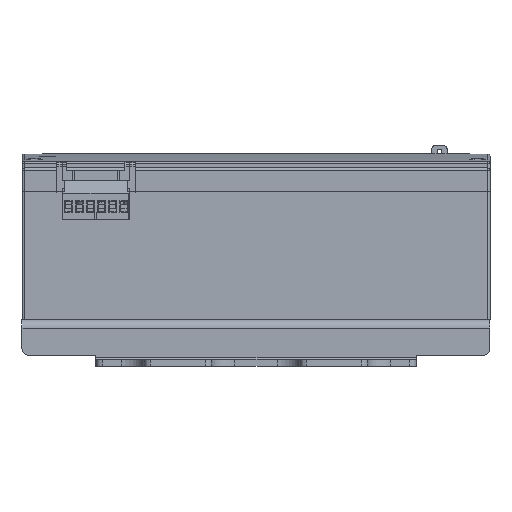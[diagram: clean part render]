
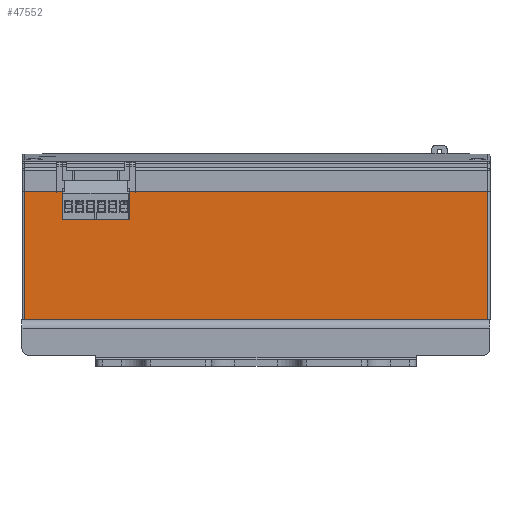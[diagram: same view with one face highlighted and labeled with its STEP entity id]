
A CAD part, front view. The second image highlights one B-rep face of the part: STEP entity #47552.
In plain terms, the highlighted planar face has unit normal (0, -1, 0).
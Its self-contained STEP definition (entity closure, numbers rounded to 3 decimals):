
#34376=LINE('',#152516,#40698);
#34391=LINE('',#152638,#40713);
#34399=LINE('',#152654,#40721);
#34450=LINE('',#152775,#40772);
#34451=LINE('',#152777,#40773);
#34452=LINE('',#152779,#40774);
#34453=LINE('',#152780,#40775);
#34454=LINE('',#152781,#40776);
#40698=VECTOR('',#121363,1.);
#40713=VECTOR('',#121418,1.);
#40721=VECTOR('',#121426,1.);
#40772=VECTOR('',#121503,1.);
#40773=VECTOR('',#121504,1.);
#40774=VECTOR('',#121505,1.);
#40775=VECTOR('',#121506,1.);
#40776=VECTOR('',#121507,1.);
#47552=ADVANCED_FACE('',(#53456),#50717,.F.);
#50717=PLANE('',#105601);
#53456=FACE_OUTER_BOUND('',#57890,.T.);
#57890=EDGE_LOOP('',(#72572,#72573,#72574,#72575,#72576,#72577,#72578,#72579));
#72572=ORIENTED_EDGE('',*,*,#94098,.T.);
#72573=ORIENTED_EDGE('',*,*,#94158,.T.);
#72574=ORIENTED_EDGE('',*,*,#94159,.T.);
#72575=ORIENTED_EDGE('',*,*,#94160,.T.);
#72576=ORIENTED_EDGE('',*,*,#94090,.T.);
#72577=ORIENTED_EDGE('',*,*,#94161,.T.);
#72578=ORIENTED_EDGE('',*,*,#94053,.F.);
#72579=ORIENTED_EDGE('',*,*,#94162,.T.);
#85204=VERTEX_POINT('',#152517);
#85205=VERTEX_POINT('',#152518);
#85238=VERTEX_POINT('',#152637);
#85239=VERTEX_POINT('',#152639);
#85246=VERTEX_POINT('',#152653);
#85247=VERTEX_POINT('',#152655);
#85304=VERTEX_POINT('',#152776);
#85305=VERTEX_POINT('',#152778);
#94053=EDGE_CURVE('',#85204,#85205,#34376,.T.);
#94090=EDGE_CURVE('',#85239,#85238,#34391,.T.);
#94098=EDGE_CURVE('',#85247,#85246,#34399,.T.);
#94158=EDGE_CURVE('',#85246,#85304,#34450,.T.);
#94159=EDGE_CURVE('',#85304,#85305,#34451,.T.);
#94160=EDGE_CURVE('',#85305,#85239,#34452,.T.);
#94161=EDGE_CURVE('',#85238,#85205,#34453,.T.);
#94162=EDGE_CURVE('',#85204,#85247,#34454,.T.);
#105601=AXIS2_PLACEMENT_3D('',#152782,#121508,#121509);
#121363=DIRECTION('',(-1.,0.,0.));
#121418=DIRECTION('',(-1.,0.,0.));
#121426=DIRECTION('',(-1.,0.,0.));
#121503=DIRECTION('',(0.,0.,-1.));
#121504=DIRECTION('',(-1.,0.,0.));
#121505=DIRECTION('',(0.,0.,1.));
#121506=DIRECTION('',(0.,0.,-1.));
#121507=DIRECTION('',(0.,0.,1.));
#121508=DIRECTION('',(0.,1.,0.));
#121509=DIRECTION('',(0.,0.,1.));
#152516=CARTESIAN_POINT('',(2376.571,-97.549,170.41));
#152517=CARTESIAN_POINT('',(2585.571,-97.549,170.41));
#152518=CARTESIAN_POINT('',(2377.571,-97.549,170.41));
#152637=CARTESIAN_POINT('',(2377.571,-97.549,227.91));
#152638=CARTESIAN_POINT('',(2475.698,-97.549,227.91));
#152639=CARTESIAN_POINT('',(2394.661,-97.549,227.91));
#152653=CARTESIAN_POINT('',(2424.861,-97.549,227.91));
#152654=CARTESIAN_POINT('',(2475.698,-97.549,227.91));
#152655=CARTESIAN_POINT('',(2585.571,-97.549,227.91));
#152775=CARTESIAN_POINT('',(2424.861,-97.549,250.01));
#152776=CARTESIAN_POINT('',(2424.861,-97.549,215.41));
#152777=CARTESIAN_POINT('',(2504.061,-97.549,215.41));
#152778=CARTESIAN_POINT('',(2394.661,-97.549,215.41));
#152779=CARTESIAN_POINT('',(2394.661,-97.549,250.01));
#152780=CARTESIAN_POINT('',(2377.571,-97.549,228.41));
#152781=CARTESIAN_POINT('',(2585.571,-97.549,228.41));
#152782=CARTESIAN_POINT('',(2376.571,-97.549,228.41));
